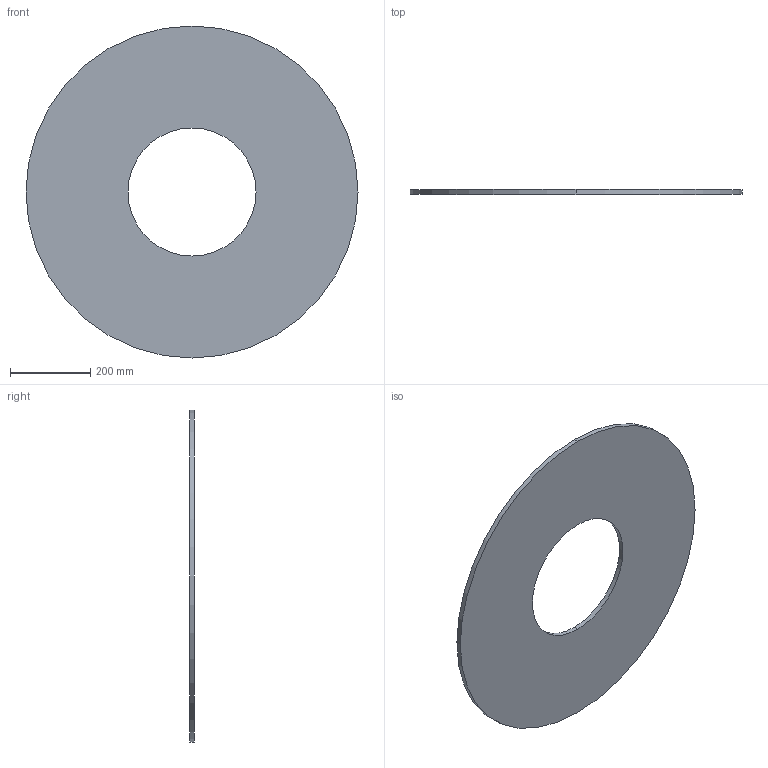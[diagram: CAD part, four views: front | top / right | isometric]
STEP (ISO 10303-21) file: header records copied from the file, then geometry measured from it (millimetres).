
FILE_DESCRIPTION (( 'STEP AP203' ), '1' );
FILE_NAME ('3D_R152_DN250_17305300.STEP', '2024-08-13T08:01:38', ( '' ), ( '' ), 'SwSTEP 2.0', 'SolidWorks 2024', '' );
FILE_SCHEMA (( 'CONFIG_CONTROL_DESIGN' ));
Length unit declared in the file: millimetre
Products named in the file (1): 3D_R152_DN250_17305300
Bounding box: 830 x 12 x 830 mm (x, y, z)
Volume: 5527632.3 mm3; surface area: 964626 mm2
Topology: 1 solids, 1 shells, 6 faces, 12 edges, 8 vertices
Faces by surface type: cylinder 4, plane 2
Entity records: 245 total; most frequent: DIRECTION 34, CARTESIAN_POINT 27, ORIENTED_EDGE 24, AXIS2_PLACEMENT_3D 15, EDGE_CURVE 12, CIRCLE 8, PERSON_AND_ORGANIZATION 8, EDGE_LOOP 8
